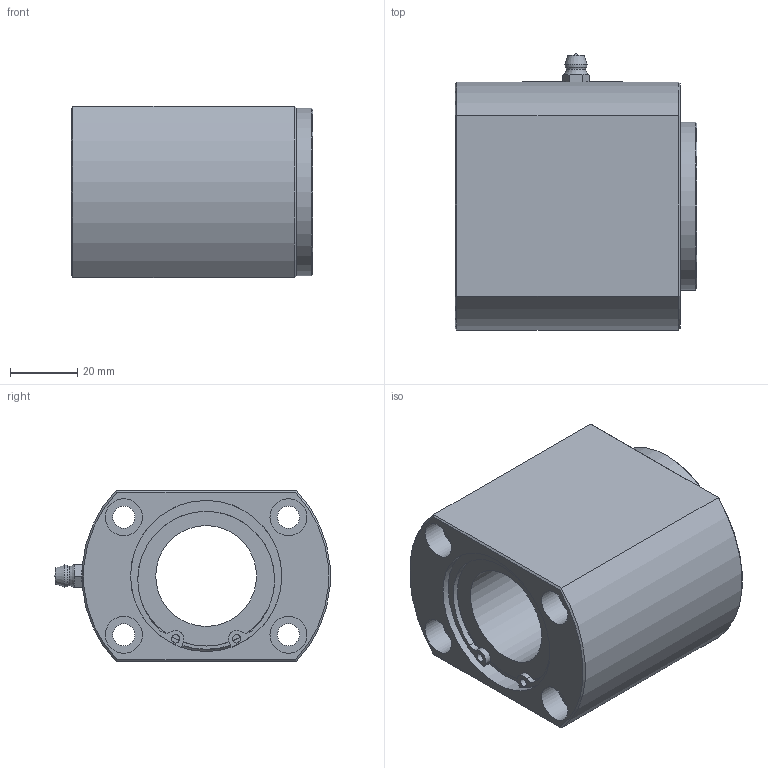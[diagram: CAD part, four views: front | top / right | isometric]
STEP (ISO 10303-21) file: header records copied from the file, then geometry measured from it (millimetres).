
FILE_DESCRIPTION((''),'2;1');
FILE_NAME('D:\製品 (図面)\カタログ用3D\リニアベアリング関連(改)\STEP形式\CTB\CTB30.stp','2010-01-25T09:48:31',('Tsuchiya'),(''),'Autodesk Inventor 10','Autodesk Inventor 10','');
FILE_SCHEMA(('AUTOMOTIVE_DESIGN { 1 0 10303 214 1 1 1 1 }'));
Length unit declared in the file: millimetre
Products named in the file (1): CTB30
Bounding box: 72 x 82.17 x 51 mm (x, y, z)
Volume: 172543.5 mm3; surface area: 36786.5 mm2
Topology: 1 solids, 3 shells, 104 faces, 275 edges, 167 vertices
Faces by surface type: plane 45, cylinder 27, bspline 16, cone 12, sphere 2, torus 2
Full cylindrical faces by diameter (mm): 2.5 x2, 6.6 x4, 11 x4, 30 x1, 41.7 x2, 43 x2, 45 x4, 50 x1
Entity records: 3114 total; most frequent: CARTESIAN_POINT 729, DIRECTION 528, ORIENTED_EDGE 440, AXIS2_PLACEMENT_3D 239, EDGE_CURVE 220, EDGE_LOOP 162, VERTEX_POINT 146, CIRCLE 146
